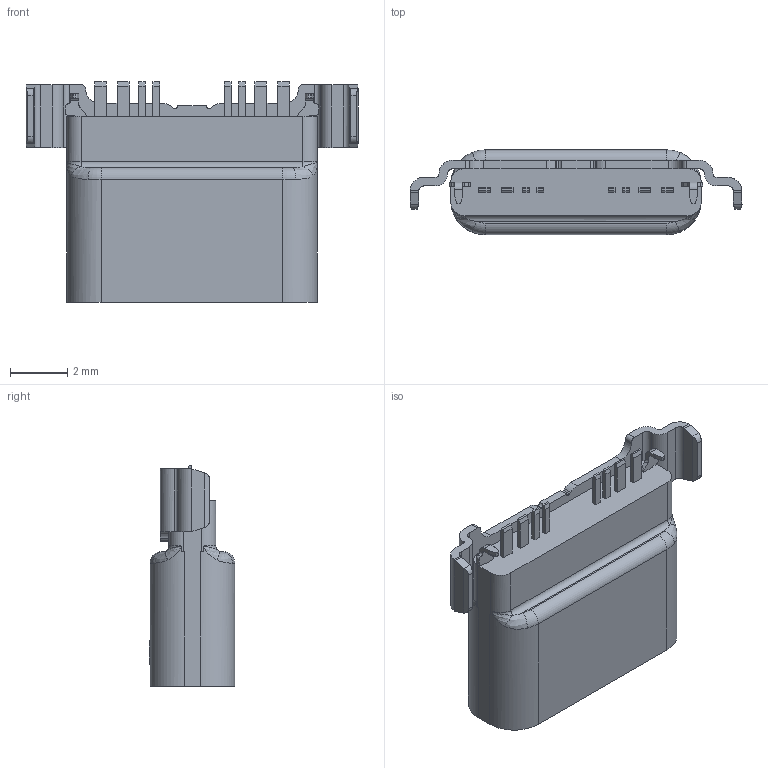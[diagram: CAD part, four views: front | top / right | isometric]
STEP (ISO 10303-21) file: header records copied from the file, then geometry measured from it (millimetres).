
FILE_DESCRIPTION (( 'STEP AP203' ), '1' );
FILE_NAME ('U5170-08N1.5C7.60LF.STEP', '2026-09-01T02:24:11', ( '' ), ( '' ), 'SwSTEP 2.0', 'SolidWorks 2024', '' );
FILE_SCHEMA (( 'CONFIG_CONTROL_DESIGN' ));
Length unit declared in the file: millimetre
Products named in the file (1): U5170-08N1.5C7.60LF
Bounding box: 11.6 x 2.99 x 7.7 mm (x, y, z)
Volume: 82.5 mm3; surface area: 413.6 mm2
Topology: 1 solids, 1 shells, 434 faces, 1209 edges, 800 vertices
Faces by surface type: plane 247, cylinder 106, bspline 41, torus 40
Entity records: 17407 total; most frequent: CARTESIAN_POINT 6925, ORIENTED_EDGE 2418, DIRECTION 1790, EDGE_CURVE 1209, VERTEX_POINT 800, VECTOR 700, LINE 700, AXIS2_PLACEMENT_3D 545
